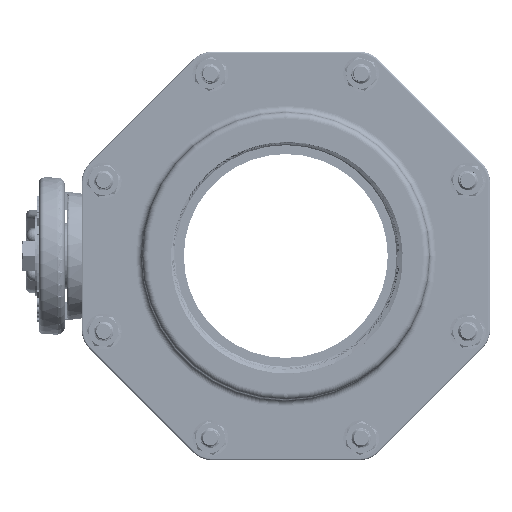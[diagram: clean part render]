
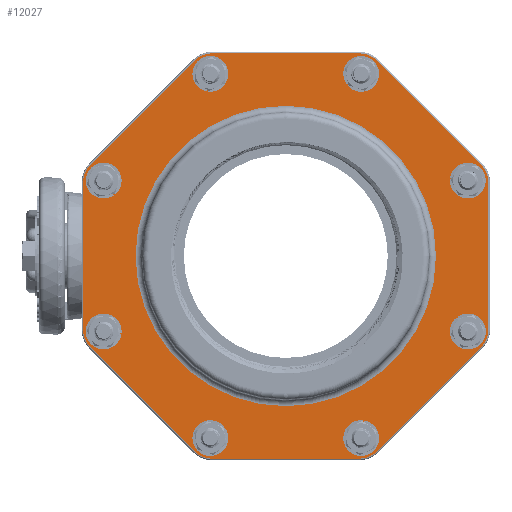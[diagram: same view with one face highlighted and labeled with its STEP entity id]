
A CAD part, left-side view. The second image highlights one B-rep face of the part: STEP entity #12027.
In plain terms, the highlighted planar face has unit normal (-1, 0, 0).
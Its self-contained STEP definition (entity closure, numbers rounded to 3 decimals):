
#2908=PLANE('',#12790);
#3733=VECTOR('',#14449,1.);
#3736=VECTOR('',#14456,1.);
#3737=VECTOR('',#14475,1.);
#3740=VECTOR('',#14482,1.);
#3741=VECTOR('',#14501,1.);
#3744=VECTOR('',#14508,1.);
#3745=VECTOR('',#14527,1.);
#3748=VECTOR('',#14534,1.);
#4352=LINE('',#21563,#3733);
#4355=LINE('',#21570,#3736);
#4356=LINE('',#21587,#3737);
#4359=LINE('',#21594,#3740);
#4360=LINE('',#21611,#3741);
#4363=LINE('',#21618,#3744);
#4364=LINE('',#21635,#3745);
#4367=LINE('',#21642,#3748);
#5136=VERTEX_POINT('',#21553);
#5137=VERTEX_POINT('',#21555);
#5140=VERTEX_POINT('',#21562);
#5141=VERTEX_POINT('',#21567);
#5144=VERTEX_POINT('',#21574);
#5145=VERTEX_POINT('',#21579);
#5148=VERTEX_POINT('',#21586);
#5149=VERTEX_POINT('',#21591);
#5152=VERTEX_POINT('',#21598);
#5153=VERTEX_POINT('',#21603);
#5156=VERTEX_POINT('',#21610);
#5157=VERTEX_POINT('',#21615);
#5160=VERTEX_POINT('',#21622);
#5161=VERTEX_POINT('',#21627);
#5164=VERTEX_POINT('',#21634);
#5165=VERTEX_POINT('',#21639);
#5176=VERTEX_POINT('',#21682);
#5177=VERTEX_POINT('',#21684);
#5178=VERTEX_POINT('',#21686);
#5179=VERTEX_POINT('',#21688);
#5180=VERTEX_POINT('',#21690);
#5181=VERTEX_POINT('',#21692);
#5182=VERTEX_POINT('',#21694);
#5183=VERTEX_POINT('',#21696);
#5184=VERTEX_POINT('',#21698);
#5647=CIRCLE('',#12732,1.194);
#5653=CIRCLE('',#12741,1.194);
#5657=CIRCLE('',#12746,1.194);
#5661=CIRCLE('',#12753,1.194);
#5665=CIRCLE('',#12758,1.194);
#5669=CIRCLE('',#12765,1.194);
#5673=CIRCLE('',#12770,1.194);
#5677=CIRCLE('',#12777,1.194);
#5682=CIRCLE('',#12791,7.239);
#5683=CIRCLE('',#12792,0.533);
#5684=CIRCLE('',#12793,0.533);
#5685=CIRCLE('',#12794,0.533);
#5686=CIRCLE('',#12795,0.533);
#5687=CIRCLE('',#12796,0.533);
#5688=CIRCLE('',#12797,0.533);
#5689=CIRCLE('',#12798,0.533);
#5690=CIRCLE('',#12799,0.533);
#6743=EDGE_CURVE('',#5136,#5137,#5647,.T.);
#6747=EDGE_CURVE('',#5140,#5136,#4352,.T.);
#6751=EDGE_CURVE('',#5137,#5141,#4355,.T.);
#6753=EDGE_CURVE('',#5144,#5140,#5653,.T.);
#6757=EDGE_CURVE('',#5141,#5145,#5657,.T.);
#6759=EDGE_CURVE('',#5148,#5144,#4356,.T.);
#6763=EDGE_CURVE('',#5145,#5149,#4359,.T.);
#6765=EDGE_CURVE('',#5152,#5148,#5661,.T.);
#6769=EDGE_CURVE('',#5149,#5153,#5665,.T.);
#6771=EDGE_CURVE('',#5156,#5152,#4360,.T.);
#6775=EDGE_CURVE('',#5153,#5157,#4363,.T.);
#6777=EDGE_CURVE('',#5160,#5156,#5669,.T.);
#6781=EDGE_CURVE('',#5157,#5161,#5673,.T.);
#6783=EDGE_CURVE('',#5164,#5160,#4364,.T.);
#6787=EDGE_CURVE('',#5161,#5165,#4367,.T.);
#6789=EDGE_CURVE('',#5165,#5164,#5677,.T.);
#6807=EDGE_CURVE('',#5176,#5176,#5682,.T.);
#6808=EDGE_CURVE('',#5177,#5177,#5683,.T.);
#6809=EDGE_CURVE('',#5178,#5178,#5684,.T.);
#6810=EDGE_CURVE('',#5179,#5179,#5685,.T.);
#6811=EDGE_CURVE('',#5180,#5180,#5686,.T.);
#6812=EDGE_CURVE('',#5181,#5181,#5687,.T.);
#6813=EDGE_CURVE('',#5182,#5182,#5688,.T.);
#6814=EDGE_CURVE('',#5183,#5183,#5689,.T.);
#6815=EDGE_CURVE('',#5184,#5184,#5690,.T.);
#9267=ORIENTED_EDGE('',*,*,#6807,.F.);
#9268=ORIENTED_EDGE('',*,*,#6808,.T.);
#9269=ORIENTED_EDGE('',*,*,#6809,.T.);
#9270=ORIENTED_EDGE('',*,*,#6810,.T.);
#9271=ORIENTED_EDGE('',*,*,#6811,.T.);
#9272=ORIENTED_EDGE('',*,*,#6812,.T.);
#9273=ORIENTED_EDGE('',*,*,#6813,.T.);
#9274=ORIENTED_EDGE('',*,*,#6814,.T.);
#9275=ORIENTED_EDGE('',*,*,#6815,.T.);
#9276=ORIENTED_EDGE('',*,*,#6743,.F.);
#9277=ORIENTED_EDGE('',*,*,#6747,.F.);
#9278=ORIENTED_EDGE('',*,*,#6753,.F.);
#9279=ORIENTED_EDGE('',*,*,#6759,.F.);
#9280=ORIENTED_EDGE('',*,*,#6765,.F.);
#9281=ORIENTED_EDGE('',*,*,#6771,.F.);
#9282=ORIENTED_EDGE('',*,*,#6777,.F.);
#9283=ORIENTED_EDGE('',*,*,#6783,.F.);
#9284=ORIENTED_EDGE('',*,*,#6789,.F.);
#9285=ORIENTED_EDGE('',*,*,#6787,.F.);
#9286=ORIENTED_EDGE('',*,*,#6781,.F.);
#9287=ORIENTED_EDGE('',*,*,#6775,.F.);
#9288=ORIENTED_EDGE('',*,*,#6769,.F.);
#9289=ORIENTED_EDGE('',*,*,#6763,.F.);
#9290=ORIENTED_EDGE('',*,*,#6757,.F.);
#9291=ORIENTED_EDGE('',*,*,#6751,.F.);
#10636=EDGE_LOOP('',(#9267));
#10637=EDGE_LOOP('',(#9268));
#10638=EDGE_LOOP('',(#9269));
#10639=EDGE_LOOP('',(#9270));
#10640=EDGE_LOOP('',(#9271));
#10641=EDGE_LOOP('',(#9272));
#10642=EDGE_LOOP('',(#9273));
#10643=EDGE_LOOP('',(#9274));
#10644=EDGE_LOOP('',(#9275));
#10645=EDGE_LOOP('',(#9276,#9277,#9278,#9279,#9280,#9281,#9282,#9283,#9284,
#9285,#9286,#9287,#9288,#9289,#9290,#9291));
#11365=FACE_BOUND('',#10636,.T.);
#11366=FACE_BOUND('',#10637,.T.);
#11367=FACE_BOUND('',#10638,.T.);
#11368=FACE_BOUND('',#10639,.T.);
#11369=FACE_BOUND('',#10640,.T.);
#11370=FACE_BOUND('',#10641,.T.);
#11371=FACE_BOUND('',#10642,.T.);
#11372=FACE_BOUND('',#10643,.T.);
#11373=FACE_BOUND('',#10644,.T.);
#11374=FACE_BOUND('',#10645,.T.);
#12027=ADVANCED_FACE('',(#11365,#11366,#11367,#11368,#11369,#11370,#11371,
#11372,#11373,#11374),#2908,.F.);
#12732=AXIS2_PLACEMENT_3D('',#21554,#14439,#14440);
#12741=AXIS2_PLACEMENT_3D('',#21575,#14460,#14461);
#12746=AXIS2_PLACEMENT_3D('',#21582,#14469,#14470);
#12753=AXIS2_PLACEMENT_3D('',#21599,#14486,#14487);
#12758=AXIS2_PLACEMENT_3D('',#21606,#14495,#14496);
#12765=AXIS2_PLACEMENT_3D('',#21623,#14512,#14513);
#12770=AXIS2_PLACEMENT_3D('',#21630,#14521,#14522);
#12777=AXIS2_PLACEMENT_3D('',#21645,#14538,#14539);
#12790=AXIS2_PLACEMENT_3D('',#21680,#14573,$);
#12791=AXIS2_PLACEMENT_3D('',#21681,#14574,#14575);
#12792=AXIS2_PLACEMENT_3D('',#21683,#14576,#14577);
#12793=AXIS2_PLACEMENT_3D('',#21685,#14578,#14579);
#12794=AXIS2_PLACEMENT_3D('',#21687,#14580,#14581);
#12795=AXIS2_PLACEMENT_3D('',#21689,#14582,#14583);
#12796=AXIS2_PLACEMENT_3D('',#21691,#14584,#14585);
#12797=AXIS2_PLACEMENT_3D('',#21693,#14586,#14587);
#12798=AXIS2_PLACEMENT_3D('',#21695,#14588,#14589);
#12799=AXIS2_PLACEMENT_3D('',#21697,#14590,#14591);
#14439=DIRECTION('',(1.,0.,0.));
#14440=DIRECTION('',(0.,0.457,1.103));
#14449=DIRECTION('',(0.,-0.707,0.707));
#14456=DIRECTION('',(0.,-1.,0.));
#14460=DIRECTION('',(1.,0.,0.));
#14461=DIRECTION('',(0.,1.103,0.457));
#14469=DIRECTION('',(1.,0.,0.));
#14470=DIRECTION('',(0.,-0.457,1.103));
#14475=DIRECTION('',(0.,0.,1.));
#14482=DIRECTION('',(0.,-0.707,-0.707));
#14486=DIRECTION('',(1.,0.,0.));
#14487=DIRECTION('',(0.,1.103,-0.457));
#14495=DIRECTION('',(1.,0.,0.));
#14496=DIRECTION('',(0.,-1.103,0.457));
#14501=DIRECTION('',(0.,0.707,0.707));
#14508=DIRECTION('',(0.,0.,-1.));
#14512=DIRECTION('',(1.,0.,0.));
#14513=DIRECTION('',(0.,0.457,-1.103));
#14521=DIRECTION('',(1.,0.,0.));
#14522=DIRECTION('',(0.,-1.103,-0.457));
#14527=DIRECTION('',(0.,1.,0.));
#14534=DIRECTION('',(0.,0.707,-0.707));
#14538=DIRECTION('',(1.,0.,0.));
#14539=DIRECTION('',(0.,-0.457,-1.103));
#14573=DIRECTION('',(1.,0.,0.));
#14574=DIRECTION('',(-1.,0.,0.));
#14575=DIRECTION('',(0.,0.,-7.239));
#14576=DIRECTION('',(1.,0.,0.));
#14577=DIRECTION('',(0.,0.,0.533));
#14578=DIRECTION('',(1.,0.,0.));
#14579=DIRECTION('',(0.,0.,0.533));
#14580=DIRECTION('',(1.,0.,0.));
#14581=DIRECTION('',(0.,0.,0.533));
#14582=DIRECTION('',(1.,0.,0.));
#14583=DIRECTION('',(0.,0.,0.533));
#14584=DIRECTION('',(1.,0.,0.));
#14585=DIRECTION('',(0.,0.,0.533));
#14586=DIRECTION('',(1.,0.,0.));
#14587=DIRECTION('',(0.,0.,0.533));
#14588=DIRECTION('',(1.,0.,0.));
#14589=DIRECTION('',(0.,0.,0.533));
#14590=DIRECTION('',(1.,0.,0.));
#14591=DIRECTION('',(0.,0.,0.533));
#21553=CARTESIAN_POINT('',(0.,4.395,9.417));
#21554=CARTESIAN_POINT('',(0.,3.551,8.573));
#21555=CARTESIAN_POINT('',(0.,3.551,9.766));
#21562=CARTESIAN_POINT('',(0.,9.417,4.395));
#21563=CARTESIAN_POINT('',(0.,6.906,6.906));
#21567=CARTESIAN_POINT('',(0.,-3.551,9.766));
#21570=CARTESIAN_POINT('',(0.,0.,9.766));
#21574=CARTESIAN_POINT('',(0.,9.766,3.551));
#21575=CARTESIAN_POINT('',(0.,8.573,3.551));
#21579=CARTESIAN_POINT('',(0.,-4.395,9.417));
#21582=CARTESIAN_POINT('',(0.,-3.551,8.573));
#21586=CARTESIAN_POINT('',(0.,9.766,-3.551));
#21587=CARTESIAN_POINT('',(0.,9.766,0.));
#21591=CARTESIAN_POINT('',(0.,-9.417,4.395));
#21594=CARTESIAN_POINT('',(0.,-6.906,6.906));
#21598=CARTESIAN_POINT('',(0.,9.417,-4.395));
#21599=CARTESIAN_POINT('',(0.,8.573,-3.551));
#21603=CARTESIAN_POINT('',(0.,-9.766,3.551));
#21606=CARTESIAN_POINT('',(0.,-8.573,3.551));
#21610=CARTESIAN_POINT('',(0.,4.395,-9.417));
#21611=CARTESIAN_POINT('',(0.,6.906,-6.906));
#21615=CARTESIAN_POINT('',(0.,-9.766,-3.551));
#21618=CARTESIAN_POINT('',(0.,-9.766,0.));
#21622=CARTESIAN_POINT('',(0.,3.551,-9.766));
#21623=CARTESIAN_POINT('',(0.,3.551,-8.573));
#21627=CARTESIAN_POINT('',(0.,-9.417,-4.395));
#21630=CARTESIAN_POINT('',(0.,-8.573,-3.551));
#21634=CARTESIAN_POINT('',(0.,-3.551,-9.766));
#21635=CARTESIAN_POINT('',(0.,0.,-9.766));
#21639=CARTESIAN_POINT('',(0.,-4.395,-9.417));
#21642=CARTESIAN_POINT('',(0.,-6.906,-6.906));
#21645=CARTESIAN_POINT('',(0.,-3.551,-8.573));
#21680=CARTESIAN_POINT('',(0.,0.,0.));
#21681=CARTESIAN_POINT('',(0.,0.,0.));
#21682=CARTESIAN_POINT('',(0.,0.,7.239));
#21683=CARTESIAN_POINT('',(0.,8.776,3.635));
#21684=CARTESIAN_POINT('',(0.,8.776,3.102));
#21685=CARTESIAN_POINT('',(0.,3.635,-8.776));
#21686=CARTESIAN_POINT('',(0.,3.635,-9.309));
#21687=CARTESIAN_POINT('',(0.,-8.776,-3.635));
#21688=CARTESIAN_POINT('',(0.,-8.776,-4.168));
#21689=CARTESIAN_POINT('',(0.,-3.635,8.776));
#21690=CARTESIAN_POINT('',(0.,-3.635,8.242));
#21691=CARTESIAN_POINT('',(0.,3.635,8.776));
#21692=CARTESIAN_POINT('',(0.,3.635,8.242));
#21693=CARTESIAN_POINT('',(0.,-8.776,3.635));
#21694=CARTESIAN_POINT('',(0.,-8.776,3.102));
#21695=CARTESIAN_POINT('',(0.,-3.635,-8.776));
#21696=CARTESIAN_POINT('',(0.,-3.635,-9.309));
#21697=CARTESIAN_POINT('',(0.,8.776,-3.635));
#21698=CARTESIAN_POINT('',(0.,8.776,-4.168));
